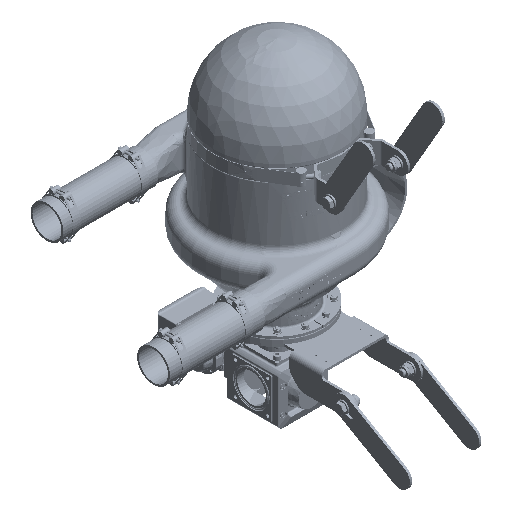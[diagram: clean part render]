
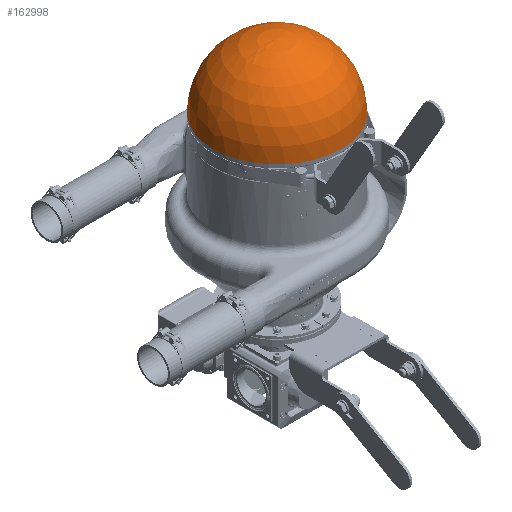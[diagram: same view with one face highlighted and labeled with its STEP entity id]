
A CAD part, isometric view. The second image highlights one B-rep face of the part: STEP entity #162998.
In plain terms, the highlighted spherical face has radius 168 mm.
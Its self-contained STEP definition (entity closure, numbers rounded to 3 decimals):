
#86=SPHERICAL_SURFACE('',#176085,168.);
#31163=FACE_OUTER_BOUND('',#40839,.T.);
#40839=EDGE_LOOP('',(#146962,#146963,#146964,#146965));
#68931=CIRCLE('',#176086,168.);
#68932=CIRCLE('',#176087,168.);
#68933=CIRCLE('',#176088,168.);
#82096=VERTEX_POINT('',#354228);
#82097=VERTEX_POINT('',#354229);
#82098=VERTEX_POINT('',#354231);
#104049=EDGE_CURVE('',#82096,#82097,#68931,.T.);
#104050=EDGE_CURVE('',#82098,#82097,#68932,.T.);
#104051=EDGE_CURVE('',#82097,#82096,#68933,.T.);
#146962=ORIENTED_EDGE('',*,*,#104049,.T.);
#146963=ORIENTED_EDGE('',*,*,#104050,.F.);
#146964=ORIENTED_EDGE('',*,*,#104050,.T.);
#146965=ORIENTED_EDGE('',*,*,#104051,.T.);
#162998=ADVANCED_FACE('',(#31163),#86,.T.);
#176085=AXIS2_PLACEMENT_3D('',#354227,#208680,#208681);
#176086=AXIS2_PLACEMENT_3D('',#354230,#208682,#208683);
#176087=AXIS2_PLACEMENT_3D('',#354232,#208684,#208685);
#176088=AXIS2_PLACEMENT_3D('',#354233,#208686,#208687);
#208680=DIRECTION('center_axis',(0.,0.,
-1.));
#208681=DIRECTION('ref_axis',(0.,1.,0.));
#208682=DIRECTION('center_axis',(0.,0.,
-1.));
#208683=DIRECTION('ref_axis',(-1.,0.,0.));
#208684=DIRECTION('center_axis',(-1.,0.,0.));
#208685=DIRECTION('ref_axis',(0.,-1.,0.));
#208686=DIRECTION('center_axis',(0.,0.,
-1.));
#208687=DIRECTION('ref_axis',(-1.,0.,0.));
#354227=CARTESIAN_POINT('Origin',(0.,0.,
-140.));
#354228=CARTESIAN_POINT('',(-168.,0.,-140.));
#354229=CARTESIAN_POINT('',(0.,-168.,-140.));
#354230=CARTESIAN_POINT('Origin',(0.,0.,
-140.));
#354231=CARTESIAN_POINT('',(0.,0.,
-308.));
#354232=CARTESIAN_POINT('Origin',(0.,0.,
-140.));
#354233=CARTESIAN_POINT('Origin',(0.,0.,
-140.));
